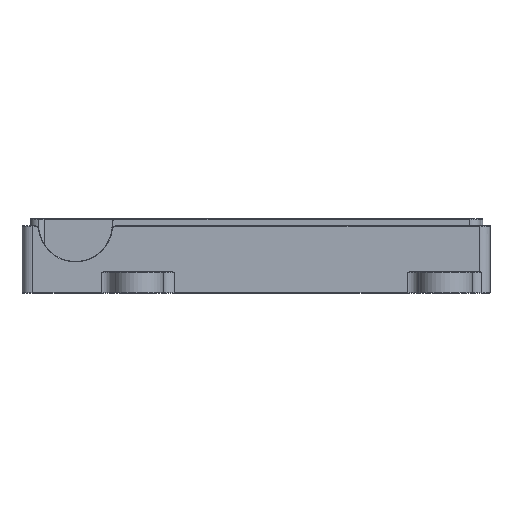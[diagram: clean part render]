
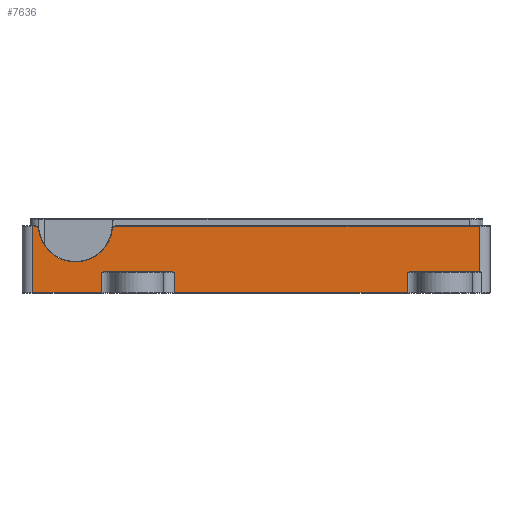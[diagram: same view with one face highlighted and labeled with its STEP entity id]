
A CAD part, left-side view. The second image highlights one B-rep face of the part: STEP entity #7636.
In plain terms, the highlighted planar face has unit normal (-1, 0, 0).
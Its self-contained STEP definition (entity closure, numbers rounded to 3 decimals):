
#36=(
BOUNDED_CURVE()
B_SPLINE_CURVE(2,(#11499,#11500,#11501),.UNSPECIFIED.,.F.,.F.)
B_SPLINE_CURVE_WITH_KNOTS((3,3),(0.041,0.081),
 .UNSPECIFIED.)
CURVE()
GEOMETRIC_REPRESENTATION_ITEM()
RATIONAL_B_SPLINE_CURVE((1.,1.008,1.))
REPRESENTATION_ITEM('')
);
#37=(
BOUNDED_CURVE()
B_SPLINE_CURVE(2,(#11513,#11514,#11515),.UNSPECIFIED.,.F.,.F.)
B_SPLINE_CURVE_WITH_KNOTS((3,3),(0.,0.041),.UNSPECIFIED.)
CURVE()
GEOMETRIC_REPRESENTATION_ITEM()
RATIONAL_B_SPLINE_CURVE((1.,1.008,1.))
REPRESENTATION_ITEM('')
);
#38=(
BOUNDED_CURVE()
B_SPLINE_CURVE(2,(#11542,#11543,#11544),.UNSPECIFIED.,.F.,.F.)
B_SPLINE_CURVE_WITH_KNOTS((3,3),(0.041,0.081),
 .UNSPECIFIED.)
CURVE()
GEOMETRIC_REPRESENTATION_ITEM()
RATIONAL_B_SPLINE_CURVE((1.,1.008,1.))
REPRESENTATION_ITEM('')
);
#422=CIRCLE('',#8331,0.45);
#423=CIRCLE('',#8333,5.2);
#425=CIRCLE('',#8336,0.45);
#776=PLANE('',#8338);
#1105=FACE_OUTER_BOUND('',#1568,.T.);
#1568=EDGE_LOOP('',(#6279,#6280,#6281,#6282,#6283,#6284,#6285,#6286,#6287,
#6288,#6289,#6290,#6291,#6292,#6293,#6294,#6295));
#1894=LINE('',#11507,#2615);
#1903=LINE('',#11548,#2624);
#1948=LINE('',#11717,#2669);
#1957=LINE('',#11741,#2678);
#1976=LINE('',#11799,#2697);
#1977=LINE('',#11801,#2698);
#1984=LINE('',#11816,#2705);
#2227=LINE('',#12763,#2948);
#2232=LINE('',#12780,#2953);
#2235=LINE('',#12785,#2956);
#2236=LINE('',#12786,#2957);
#2615=VECTOR('',#8944,10.);
#2624=VECTOR('',#8979,10.);
#2669=VECTOR('',#9144,10.);
#2678=VECTOR('',#9171,10.);
#2697=VECTOR('',#9238,10.);
#2698=VECTOR('',#9241,10.);
#2705=VECTOR('',#9260,10.);
#2948=VECTOR('',#10051,10.);
#2953=VECTOR('',#10072,10.);
#2956=VECTOR('',#10077,10.);
#2957=VECTOR('',#10078,10.);
#3365=VERTEX_POINT('',#11497);
#3366=VERTEX_POINT('',#11498);
#3367=VERTEX_POINT('',#11505);
#3369=VERTEX_POINT('',#11511);
#3370=VERTEX_POINT('',#11512);
#3379=VERTEX_POINT('',#11540);
#3380=VERTEX_POINT('',#11541);
#3439=VERTEX_POINT('',#11711);
#3440=VERTEX_POINT('',#11715);
#3445=VERTEX_POINT('',#11735);
#3446=VERTEX_POINT('',#11739);
#3459=VERTEX_POINT('',#11814);
#3737=VERTEX_POINT('',#12758);
#3738=VERTEX_POINT('',#12762);
#3739=VERTEX_POINT('',#12766);
#3740=VERTEX_POINT('',#12770);
#3741=VERTEX_POINT('',#12774);
#4100=EDGE_CURVE('',#3365,#3366,#36,.F.);
#4104=EDGE_CURVE('',#3365,#3367,#1894,.T.);
#4106=EDGE_CURVE('',#3369,#3370,#37,.F.);
#4119=EDGE_CURVE('',#3379,#3380,#38,.F.);
#4122=EDGE_CURVE('',#3379,#3370,#1903,.T.);
#4205=EDGE_CURVE('',#3440,#3439,#1948,.T.);
#4217=EDGE_CURVE('',#3446,#3445,#1957,.T.);
#4245=EDGE_CURVE('',#3445,#3369,#1976,.T.);
#4246=EDGE_CURVE('',#3366,#3446,#1977,.T.);
#4254=EDGE_CURVE('',#3459,#3367,#1984,.T.);
#4661=EDGE_CURVE('',#3737,#3738,#2227,.T.);
#4664=EDGE_CURVE('',#3738,#3739,#422,.T.);
#4665=EDGE_CURVE('',#3739,#3740,#423,.T.);
#4669=EDGE_CURVE('',#3740,#3741,#425,.T.);
#4670=EDGE_CURVE('',#3741,#3459,#2232,.T.);
#4673=EDGE_CURVE('',#3380,#3440,#2235,.T.);
#4674=EDGE_CURVE('',#3439,#3737,#2236,.T.);
#6279=ORIENTED_EDGE('',*,*,#4205,.F.);
#6280=ORIENTED_EDGE('',*,*,#4673,.F.);
#6281=ORIENTED_EDGE('',*,*,#4119,.F.);
#6282=ORIENTED_EDGE('',*,*,#4122,.T.);
#6283=ORIENTED_EDGE('',*,*,#4106,.F.);
#6284=ORIENTED_EDGE('',*,*,#4245,.F.);
#6285=ORIENTED_EDGE('',*,*,#4217,.F.);
#6286=ORIENTED_EDGE('',*,*,#4246,.F.);
#6287=ORIENTED_EDGE('',*,*,#4100,.F.);
#6288=ORIENTED_EDGE('',*,*,#4104,.T.);
#6289=ORIENTED_EDGE('',*,*,#4254,.F.);
#6290=ORIENTED_EDGE('',*,*,#4670,.F.);
#6291=ORIENTED_EDGE('',*,*,#4669,.F.);
#6292=ORIENTED_EDGE('',*,*,#4665,.F.);
#6293=ORIENTED_EDGE('',*,*,#4664,.F.);
#6294=ORIENTED_EDGE('',*,*,#4661,.F.);
#6295=ORIENTED_EDGE('',*,*,#4674,.F.);
#7636=ADVANCED_FACE('',(#1105),#776,.T.);
#8331=AXIS2_PLACEMENT_3D('',#12768,#10056,#10057);
#8333=AXIS2_PLACEMENT_3D('',#12771,#10060,#10061);
#8336=AXIS2_PLACEMENT_3D('',#12778,#10068,#10069);
#8338=AXIS2_PLACEMENT_3D('',#12784,#10075,#10076);
#8944=DIRECTION('',(0.,-1.,0.));
#8979=DIRECTION('',(0.,-1.,0.));
#9144=DIRECTION('',(0.,1.,0.));
#9171=DIRECTION('',(0.,1.,0.));
#9238=DIRECTION('',(0.,0.,1.));
#9241=DIRECTION('',(0.,0.,-1.));
#9260=DIRECTION('',(0.,0.,-1.));
#10051=DIRECTION('',(0.,-1.,0.));
#10056=DIRECTION('center_axis',(1.,0.,0.));
#10057=DIRECTION('ref_axis',(0.,-0.664,0.747));
#10060=DIRECTION('center_axis',(-1.,0.,0.));
#10061=DIRECTION('ref_axis',(0.,-1.,0.));
#10068=DIRECTION('center_axis',(1.,0.,0.));
#10069=DIRECTION('ref_axis',(0.,0.664,0.747));
#10072=DIRECTION('',(0.,-1.,0.));
#10075=DIRECTION('center_axis',(-1.,0.,0.));
#10076=DIRECTION('ref_axis',(0.,-1.,0.));
#10077=DIRECTION('',(0.,0.,-1.));
#10078=DIRECTION('',(0.,0.,1.));
#11497=CARTESIAN_POINT('',(-17.75,-16.552,-2.756));
#11498=CARTESIAN_POINT('',(-17.75,-16.149,-2.806));
#11499=CARTESIAN_POINT('Ctrl Pts',(-17.75,-16.149,-2.806));
#11500=CARTESIAN_POINT('Ctrl Pts',(-17.75,-16.348,-2.806));
#11501=CARTESIAN_POINT('Ctrl Pts',(-17.75,-16.552,-2.756));
#11505=CARTESIAN_POINT('',(-17.75,-26.25,-2.756));
#11507=CARTESIAN_POINT('',(-17.75,18.813,-2.756));
#11511=CARTESIAN_POINT('',(-17.75,16.4,-2.806));
#11512=CARTESIAN_POINT('',(-17.75,16.803,-2.756));
#11513=CARTESIAN_POINT('Ctrl Pts',(-17.75,16.803,-2.756));
#11514=CARTESIAN_POINT('Ctrl Pts',(-17.75,16.598,-2.806));
#11515=CARTESIAN_POINT('Ctrl Pts',(-17.75,16.4,-2.806));
#11540=CARTESIAN_POINT('',(-17.75,26.197,-2.756));
#11541=CARTESIAN_POINT('',(-17.75,26.6,-2.806));
#11542=CARTESIAN_POINT('Ctrl Pts',(-17.75,26.6,-2.806));
#11543=CARTESIAN_POINT('Ctrl Pts',(-17.75,26.402,-2.806));
#11544=CARTESIAN_POINT('Ctrl Pts',(-17.75,26.197,-2.756));
#11548=CARTESIAN_POINT('',(-17.75,18.813,-2.756));
#11711=CARTESIAN_POINT('',(-17.75,36.25,-5.706));
#11715=CARTESIAN_POINT('',(-17.75,26.6,-5.706));
#11717=CARTESIAN_POINT('',(-17.75,20.,-5.706));
#11735=CARTESIAN_POINT('',(-17.75,16.4,-5.706));
#11739=CARTESIAN_POINT('',(-17.75,-16.149,-5.706));
#11741=CARTESIAN_POINT('',(-17.75,20.,-5.706));
#11799=CARTESIAN_POINT('',(-17.75,16.4,-5.756));
#11801=CARTESIAN_POINT('',(-17.75,-16.149,-5.756));
#11814=CARTESIAN_POINT('',(-17.75,-26.25,3.594));
#11816=CARTESIAN_POINT('',(-17.75,-26.25,-5.756));
#12758=CARTESIAN_POINT('',(-17.75,36.25,3.594));
#12762=CARTESIAN_POINT('',(-17.75,35.886,3.594));
#12763=CARTESIAN_POINT('',(-17.75,21.375,3.594));
#12766=CARTESIAN_POINT('',(-17.75,35.439,3.197));
#12768=CARTESIAN_POINT('Origin',(-17.75,35.886,3.144));
#12770=CARTESIAN_POINT('',(-17.75,25.111,3.197));
#12771=CARTESIAN_POINT('Origin',(-17.75,30.275,3.806));
#12774=CARTESIAN_POINT('',(-17.75,24.664,3.594));
#12778=CARTESIAN_POINT('Origin',(-17.75,24.664,3.144));
#12780=CARTESIAN_POINT('',(-17.75,21.375,3.594));
#12784=CARTESIAN_POINT('Origin',(-17.75,37.75,-5.756));
#12785=CARTESIAN_POINT('',(-17.75,26.6,-5.756));
#12786=CARTESIAN_POINT('',(-17.75,36.25,-5.756));
